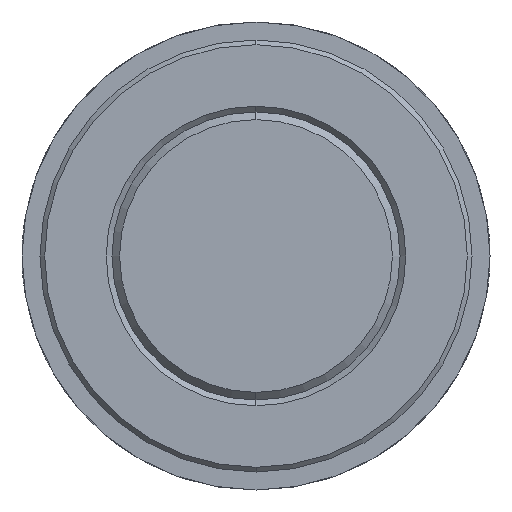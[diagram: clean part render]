
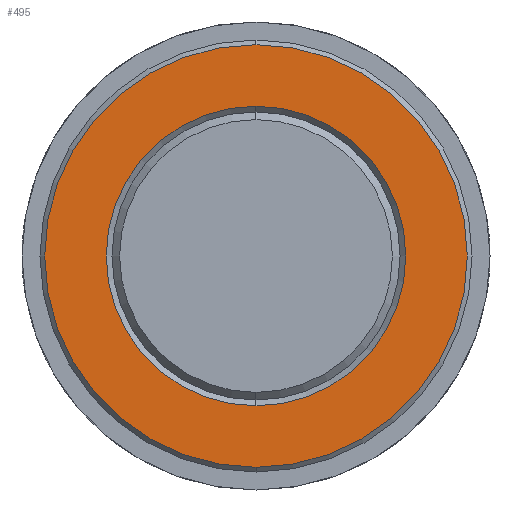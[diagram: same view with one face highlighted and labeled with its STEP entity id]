
A CAD part, left-side view. The second image highlights one B-rep face of the part: STEP entity #495.
In plain terms, the highlighted planar face has unit normal (-1, 0, 0).
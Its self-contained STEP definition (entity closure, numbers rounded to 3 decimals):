
#307=EDGE_CURVE('',#443,#335,#707,.T.);
#335=VERTEX_POINT('',#741);
#347=EDGE_CURVE('',#571,#427,#753,.T.);
#427=VERTEX_POINT('',#841);
#429=EDGE_CURVE('',#335,#443,#843,.T.);
#443=VERTEX_POINT('',#859);
#479=EDGE_CURVE('',#427,#571,#902,.T.);
#495=ADVANCED_FACE('',(#923,#924),#925,.T.);
#571=VERTEX_POINT('',#1009);
#707=CIRCLE('',#1226,20.8);
#741=CARTESIAN_POINT('',(25.0,0.,-20.8));
#753=CIRCLE('',#1286,29.35);
#841=CARTESIAN_POINT('',(25.0,0.0,29.35));
#843=CIRCLE('',#1397,20.8);
#859=CARTESIAN_POINT('',(25.0,0.0,20.8));
#902=CIRCLE('',#1484,29.35);
#923=FACE_BOUND('',#1505,.T.);
#924=FACE_OUTER_BOUND('',#1506,.T.);
#925=PLANE('',#1507);
#1009=CARTESIAN_POINT('',(25.0,0.,-29.35));
#1226=AXIS2_PLACEMENT_3D('',#1789,#1790,#1791);
#1286=AXIS2_PLACEMENT_3D('',#1852,#1853,#1854);
#1397=AXIS2_PLACEMENT_3D('',#1952,#1953,#1954);
#1484=AXIS2_PLACEMENT_3D('',#2037,#2038,#2039);
#1505=EDGE_LOOP('',(#2081,#2082));
#1506=EDGE_LOOP('',(#2083,#2084));
#1507=AXIS2_PLACEMENT_3D('',#2085,#2086,#2087);
#1789=CARTESIAN_POINT('',(25.0,0.0,0.0));
#1790=DIRECTION('',(1.0,0.0,0.));
#1791=DIRECTION('',(0.,0.0,1.0));
#1852=CARTESIAN_POINT('',(25.0,0.0,0.0));
#1853=DIRECTION('',(1.0,0.0,-0.0));
#1854=DIRECTION('',(0.0,0.0,1.0));
#1952=CARTESIAN_POINT('',(25.0,0.0,0.0));
#1953=DIRECTION('',(1.0,0.0,0.));
#1954=DIRECTION('',(0.,0.0,1.0));
#2037=CARTESIAN_POINT('',(25.0,0.0,0.0));
#2038=DIRECTION('',(1.0,0.0,-0.0));
#2039=DIRECTION('',(0.0,0.0,1.0));
#2081=ORIENTED_EDGE('',*,*,#307,.T.);
#2082=ORIENTED_EDGE('',*,*,#429,.T.);
#2083=ORIENTED_EDGE('',*,*,#479,.F.);
#2084=ORIENTED_EDGE('',*,*,#347,.F.);
#2085=CARTESIAN_POINT('',(25.0,0.0,14.675));
#2086=DIRECTION('',(-1.0,-0.0,0.));
#2087=DIRECTION('',(0.,0.0,-1.0));
